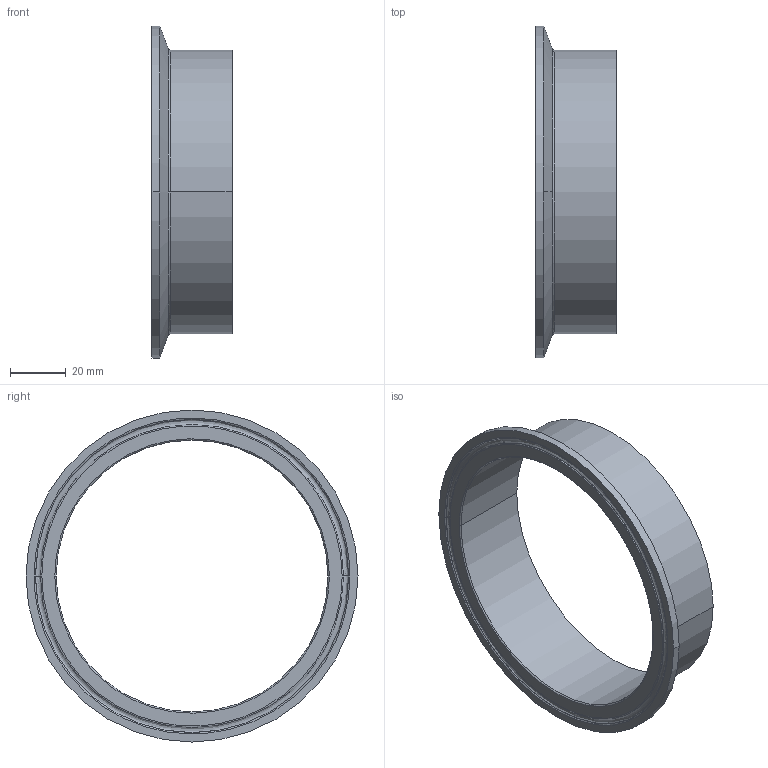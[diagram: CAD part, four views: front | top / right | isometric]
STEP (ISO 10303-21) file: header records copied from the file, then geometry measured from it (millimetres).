
FILE_DESCRIPTION (( 'STEP AP214' ), '1' );
FILE_NAME ('TEG14BM76L4.0.STEP', '2016-05-23T04:09:12', ( 'eran' ), ( '' ), 'SwSTEP 2.0', 'SolidWorks 2016', '' );
FILE_SCHEMA (( 'AUTOMOTIVE_DESIGN' ));
Length unit declared in the file: millimetre
Products named in the file (1): TEG14BM76L4.0
Bounding box: 28.7 x 118.92 x 118.92 mm (x, y, z)
Volume: 31616.5 mm3; surface area: 24690.7 mm2
Topology: 1 solids, 1 shells, 25 faces, 62 edges, 40 vertices
Faces by surface type: bspline 10, cylinder 6, cone 6, plane 3
Entity records: 1559 total; most frequent: CARTESIAN_POINT 934, DIRECTION 132, ORIENTED_EDGE 124, EDGE_CURVE 62, AXIS2_PLACEMENT_3D 60, CIRCLE 44, VERTEX_POINT 40, EDGE_LOOP 28
